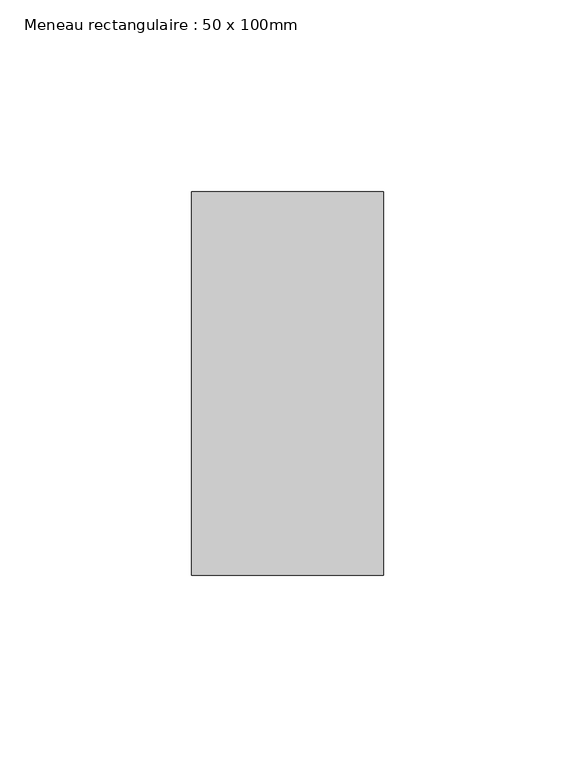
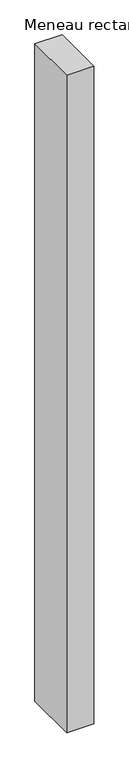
"""IFC4 building model written with IfcOpenShell, lengths in millimetres: member geometry, Meneau rectangulaire : 50 x 100mm."""

from ifc_helpers import new_model, si_unit, frame, origin, place, context, project, spatial, polyline, outline, extrude, source, transform, mapped, element, save


def meneau_rectangulaire_50_x_100mm_c5873f87(model_context):
    return source(origin(), model_context, "Body", "SweptSolid", [
        extrude(outline(polyline([(0.0, 50.0), (0.0, -50.0), (-50.0, -50.0), (-50.0, 50.0), (0.0, 50.0)])), frame((0.0, 0.0, -1268.3333333), z_axis=(0.0, 0.0, 1.0), x_axis=(1.0, 0.0, 0.0)), (0.0, 0.0, 1.0), 1268.3333333),
    ])


if __name__ == "__main__":
    model = new_model("IFC4")
    model_context = context("Model", 3, world=origin())
    ifc_project = project(units=[si_unit("LENGTHUNIT", "METRE", prefix="MILLI")], contexts=[model_context])
    site = spatial("IfcSite", under=ifc_project)
    building = spatial("IfcBuilding", under=site)
    placement = place(None, origin())
    meneau_rectangulaire_50_x_100mm_shape = meneau_rectangulaire_50_x_100mm_c5873f87(model_context)
    element("IfcMember", 1, ObjectType="Meneau rectangulaire : 50 x 100mm", at=placement, inside=building, context=model_context, shape_type="MappedRepresentation", body=[
        mapped(meneau_rectangulaire_50_x_100mm_shape, transform((0.0, 0.0, 0.0), x_axis=(1.0, 0.0, 0.0), y_axis=(0.0, 1.0, 0.0), z_axis=(0.0, 0.0, 1.0))),
    ])
    save(model, "model.ifc")
